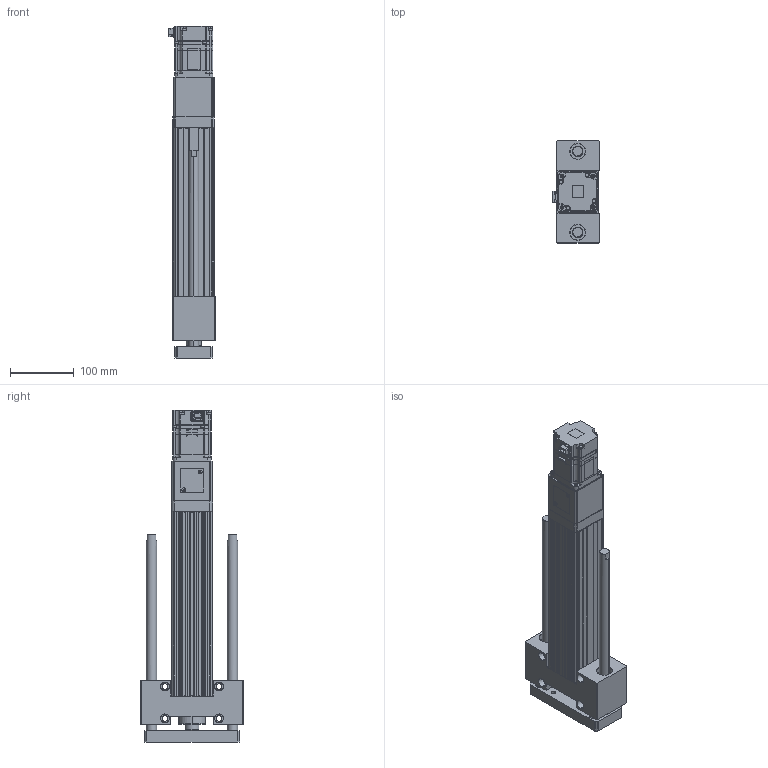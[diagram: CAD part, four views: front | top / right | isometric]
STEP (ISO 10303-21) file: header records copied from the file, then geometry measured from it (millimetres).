
FILE_DESCRIPTION (( 'STEP AP203' ), '1' );
FILE_NAME ('ANS065-HS200-05(10)-W20.STEP', '2019-03-01T04:20:04', ( 'user' ), ( '' ), 'SwSTEP 2.0', 'SolidWorks 2013', '' );
FILE_SCHEMA (( 'CONFIG_CONTROL_DESIGN' ));
Length unit declared in the file: millimetre
Products named in the file (4): ANS065 HS200 VER2; ANS065 ROD ST200 G; sgmjv_02a_a21; ANS065-HS200-05(10)-W20
Assembly tree (3 placements, depth 2):
  ANS065-HS200-05(10)-W20
    ANS065 HS200 VER2
    ANS065 ROD ST200 G
    sgmjv_02a_a21
Bounding box: 72.3 x 160 x 520.6 mm (x, y, z)
Volume: 1907590.4 mm3; surface area: 405895.2 mm2
Topology: 3 solids, 7 shells, 1237 faces, 3245 edges, 2091 vertices
Faces by surface type: plane 697, cylinder 430, cone 110
Entity records: 38305 total; most frequent: CARTESIAN_POINT 6793, DIRECTION 6569, ORIENTED_EDGE 6434, EDGE_CURVE 3217, VECTOR 2207, LINE 2207, AXIS2_PLACEMENT_3D 2181, VERTEX_POINT 2091
